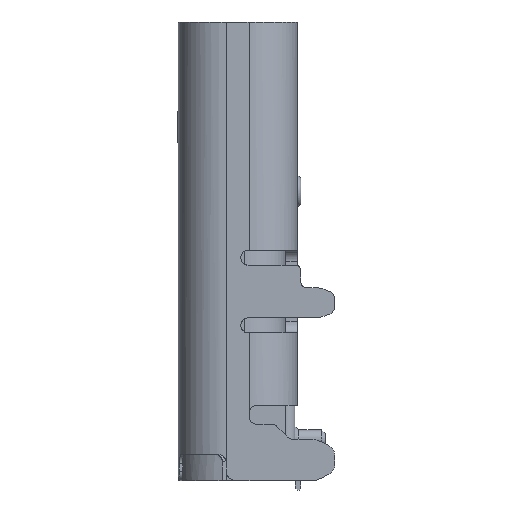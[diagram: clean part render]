
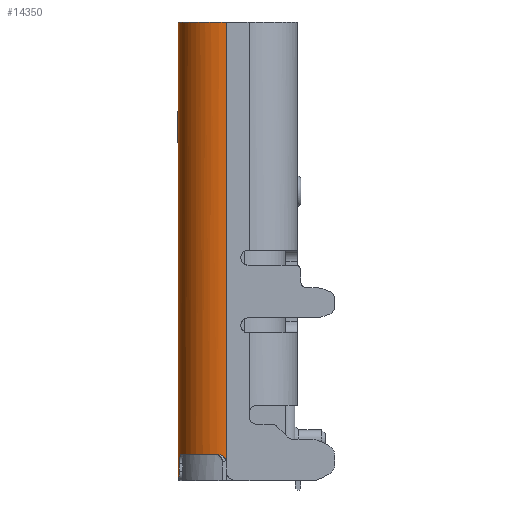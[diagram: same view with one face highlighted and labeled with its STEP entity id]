
A CAD part, left-side view. The second image highlights one B-rep face of the part: STEP entity #14350.
In plain terms, the highlighted cylindrical face has radius 1.28 mm (diameter 2.56 mm), a partial arc.
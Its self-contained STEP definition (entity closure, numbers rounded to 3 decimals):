
#260 = CARTESIAN_POINT ( 'NONE',  ( 0., 2.88, -10.95 ) ) ;
#1396 = EDGE_CURVE ( 'NONE', #3431, #17178, #72939, .T. ) ;
#2962 = CARTESIAN_POINT ( 'NONE',  ( 0.908, 4.106, -10.725 ) ) ;
#3155 = CARTESIAN_POINT ( 'NONE',  ( 1.055, 4.141, -11.278 ) ) ;
#3431 = VERTEX_POINT ( 'NONE', #44744 ) ;
#3752 = CARTESIAN_POINT ( 'NONE',  ( 0., 2.88, -7.033 ) ) ;
#5795 = CARTESIAN_POINT ( 'NONE',  ( 0.005, 3.002, -10.724 ) ) ;
#7724 = CARTESIAN_POINT ( 'NONE',  ( 1.005, 4.13, -10.84 ) ) ;
#7874 = VERTEX_POINT ( 'NONE', #35281 ) ;
#10473 = CARTESIAN_POINT ( 'NONE',  ( 0.493, 3.904, 0.8 ) ) ;
#10656 = VERTEX_POINT ( 'NONE', #28383 ) ;
#11595 = CARTESIAN_POINT ( 'NONE',  ( 1.28, 4.16, -11.4 ) ) ;
#11900 = CARTESIAN_POINT ( 'NONE',  ( 0., 2.88, 0.8 ) ) ;
#12941 = CARTESIAN_POINT ( 'NONE',  ( 0., 3.048, 0.8 ) ) ;
#14350 = ADVANCED_FACE ( 'NONE', ( #55228 ), #18519, .T. ) ;
#15002 = CARTESIAN_POINT ( 'NONE',  ( 1.03, 4.135, -11.219 ) ) ;
#15525 = CARTESIAN_POINT ( 'NONE',  ( 0.025, 3.13, -10.7 ) ) ;
#16010 = CARTESIAN_POINT ( 'NONE',  ( 0., 2.88, 0.8 ) ) ;
#16181 = CARTESIAN_POINT ( 'NONE',  ( 1.28, 4.16, -11.4 ) ) ;
#16428 = B_SPLINE_CURVE_WITH_KNOTS ( 'NONE', 3,
 ( #16181, #69160, #22491, #3155, #15002, #39520 ),
 .UNSPECIFIED., .F., .F.,
 ( 4, 2, 4 ),
 ( 0., 0.5, 1. ),
 .UNSPECIFIED. ) ;
#17178 = VERTEX_POINT ( 'NONE', #15525 ) ;
#17194 = CARTESIAN_POINT ( 'NONE',  ( 0.256, 3.667, 0.8 ) ) ;
#18165 = VERTEX_POINT ( 'NONE', #23615 ) ;
#18519 = CYLINDRICAL_SURFACE ( 'NONE', #72250, 1.28 ) ;
#18556 = ORIENTED_EDGE ( 'NONE', *, *, #47358, .T. ) ;
#19203 = CARTESIAN_POINT ( 'NONE',  ( 1.03, 4.135, -10.917 ) ) ;
#21150 = CARTESIAN_POINT ( 'NONE',  ( 0., 2.88, -3.117 ) ) ;
#21483 = CARTESIAN_POINT ( 'NONE',  ( 1.28, 4.16, -3.267 ) ) ;
#22491 = CARTESIAN_POINT ( 'NONE',  ( 1.152, 4.155, -11.376 ) ) ;
#23615 = CARTESIAN_POINT ( 'NONE',  ( 1.03, 4.135, -11.15 ) ) ;
#23963 = CARTESIAN_POINT ( 'NONE',  ( -0.001, 2.905, -10.821 ) ) ;
#25060 = B_SPLINE_CURVE_WITH_KNOTS ( 'NONE', 3,
 ( #74543, #19203, #49209, #7724, #33022, #26687, #25921, #2962, #44074, #49602 ),
 .UNSPECIFIED., .F., .F.,
 ( 4, 2, 2, 2, 4 ),
 ( 0., 0.25, 0.375, 0.5, 1. ),
 .UNSPECIFIED. ) ;
#25921 = CARTESIAN_POINT ( 'NONE',  ( 0.971, 4.122, -10.787 ) ) ;
#26141 = ORIENTED_EDGE ( 'NONE', *, *, #65421, .F. ) ;
#26622 = CARTESIAN_POINT ( 'NONE',  ( 1.28, 4.16, -11.4 ) ) ;
#26687 = CARTESIAN_POINT ( 'NONE',  ( 0.98, 4.124, -10.798 ) ) ;
#28383 = CARTESIAN_POINT ( 'NONE',  ( 1.28, 4.16, 0.8 ) ) ;
#29042 = CARTESIAN_POINT ( 'NONE',  ( 0.945, 4.127, 0.8 ) ) ;
#29983 = B_SPLINE_CURVE_WITH_KNOTS ( 'NONE', 3,
 ( #71430, #65089, #5795, #23963, #46494, #35091 ),
 .UNSPECIFIED., .F., .F.,
 ( 4, 2, 4 ),
 ( 0., 0.5, 1. ),
 .UNSPECIFIED. ) ;
#31142 = CARTESIAN_POINT ( 'NONE',  ( 0.78, 4.058, -10.7 ) ) ;
#32576 = CARTESIAN_POINT ( 'NONE',  ( 1.28, 4.16, -7.333 ) ) ;
#33022 = CARTESIAN_POINT ( 'NONE',  ( 0.997, 4.128, -10.825 ) ) ;
#33167 = ORIENTED_EDGE ( 'NONE', *, *, #57826, .T. ) ;
#35091 = CARTESIAN_POINT ( 'NONE',  ( 0., 2.88, -10.95 ) ) ;
#35281 = CARTESIAN_POINT ( 'NONE',  ( 1.03, 4.135, -10.95 ) ) ;
#35780 = CARTESIAN_POINT ( 'NONE',  ( 1.28, 4.16, 0.8 ) ) ;
#37100 = DIRECTION ( 'NONE',  ( 0., 0., 1. ) ) ;
#37857 = CARTESIAN_POINT ( 'NONE',  ( 0.025, 3.13, -10.7 ) ) ;
#39520 = CARTESIAN_POINT ( 'NONE',  ( 1.03, 4.135, -11.15 ) ) ;
#40528 = CARTESIAN_POINT ( 'NONE',  ( 0.033, 3.215, 0.8 ) ) ;
#44074 = CARTESIAN_POINT ( 'NONE',  ( 0.848, 4.087, -10.7 ) ) ;
#44218 = EDGE_CURVE ( 'NONE', #7874, #3431, #25060, .T. ) ;
#44327 = EDGE_CURVE ( 'NONE', #52889, #71768, #73094, .T. ) ;
#44744 = CARTESIAN_POINT ( 'NONE',  ( 0.78, 4.058, -10.7 ) ) ;
#44821 = ORIENTED_EDGE ( 'NONE', *, *, #67472, .T. ) ;
#45020 = CARTESIAN_POINT ( 'NONE',  ( 1.03, 4.135, -10.95 ) ) ;
#46494 = CARTESIAN_POINT ( 'NONE',  ( 0., 2.88, -10.88 ) ) ;
#47358 = EDGE_CURVE ( 'NONE', #60783, #18165, #16428, .T. ) ;
#49209 = CARTESIAN_POINT ( 'NONE',  ( 1.024, 4.134, -10.887 ) ) ;
#49602 = CARTESIAN_POINT ( 'NONE',  ( 0.78, 4.058, -10.7 ) ) ;
#49665 = CARTESIAN_POINT ( 'NONE',  ( 0.589, 3.977, -10.7 ) ) ;
#50445 = CARTESIAN_POINT ( 'NONE',  ( 0.156, 3.527, -10.7 ) ) ;
#50540 = CARTESIAN_POINT ( 'NONE',  ( 1.03, 4.135, -11.017 ) ) ;
#51115 = CARTESIAN_POINT ( 'NONE',  ( 1.28, 4.16, 0.8 ) ) ;
#52351 = CARTESIAN_POINT ( 'NONE',  ( 0., 2.88, -10.95 ) ) ;
#52889 = VERTEX_POINT ( 'NONE', #260 ) ;
#54363 = B_SPLINE_CURVE_WITH_KNOTS ( 'NONE', 3,
 ( #73037, #12941, #40528, #71742, #17194, #10473, #70551, #29042, #59456, #35780 ),
 .UNSPECIFIED., .F., .F.,
 ( 4, 2, 2, 2, 4 ),
 ( 0., 0.25, 0.5, 0.75, 1. ),
 .UNSPECIFIED. ) ;
#54843 = DIRECTION ( 'NONE',  ( 1., 0., 0. ) ) ;
#55228 = FACE_OUTER_BOUND ( 'NONE', #77321, .T. ) ;
#56475 = CARTESIAN_POINT ( 'NONE',  ( 1.03, 4.135, -11.083 ) ) ;
#57826 = EDGE_CURVE ( 'NONE', #17178, #52889, #29983, .T. ) ;
#58619 = ORIENTED_EDGE ( 'NONE', *, *, #1396, .T. ) ;
#59456 = CARTESIAN_POINT ( 'NONE',  ( 1.112, 4.16, 0.8 ) ) ;
#60783 = VERTEX_POINT ( 'NONE', #11595 ) ;
#60785 = CARTESIAN_POINT ( 'NONE',  ( 1.28, 2.88, -11.6 ) ) ;
#65089 = CARTESIAN_POINT ( 'NONE',  ( 0.011, 3.062, -10.7 ) ) ;
#65421 = EDGE_CURVE ( 'NONE', #60783, #10656, #71795, .T. ) ;
#67472 = EDGE_CURVE ( 'NONE', #71768, #10656, #54363, .T. ) ;
#67545 = B_SPLINE_CURVE_WITH_KNOTS ( 'NONE', 3,
 ( #75083, #56475, #50540, #45020 ),
 .UNSPECIFIED., .F., .F.,
 ( 4, 4 ),
 ( 0., 1. ),
 .UNSPECIFIED. ) ;
#68206 = ORIENTED_EDGE ( 'NONE', *, *, #44327, .T. ) ;
#69160 = CARTESIAN_POINT ( 'NONE',  ( 1.211, 4.16, -11.4 ) ) ;
#69218 = ORIENTED_EDGE ( 'NONE', *, *, #44218, .T. ) ;
#70551 = CARTESIAN_POINT ( 'NONE',  ( 0.635, 3.998, 0.8 ) ) ;
#71430 = CARTESIAN_POINT ( 'NONE',  ( 0.025, 3.13, -10.7 ) ) ;
#71443 = ORIENTED_EDGE ( 'NONE', *, *, #75320, .T. ) ;
#71742 = CARTESIAN_POINT ( 'NONE',  ( 0.162, 3.525, 0.8 ) ) ;
#71768 = VERTEX_POINT ( 'NONE', #11900 ) ;
#71795 = B_SPLINE_CURVE_WITH_KNOTS ( 'NONE', 3,
 ( #26622, #32576, #21483, #51115 ),
 .UNSPECIFIED., .F., .F.,
 ( 4, 4 ),
 ( 0., 1. ),
 .UNSPECIFIED. ) ;
#72250 = AXIS2_PLACEMENT_3D ( 'NONE', #60785, #37100, #54843 ) ;
#72939 = B_SPLINE_CURVE_WITH_KNOTS ( 'NONE', 3,
 ( #31142, #49665, #73041, #50445, #73825, #37857 ),
 .UNSPECIFIED., .F., .F.,
 ( 4, 2, 4 ),
 ( 0., 0.5, 1. ),
 .UNSPECIFIED. ) ;
#73037 = CARTESIAN_POINT ( 'NONE',  ( 0., 2.88, 0.8 ) ) ;
#73041 = CARTESIAN_POINT ( 'NONE',  ( 0.418, 3.849, -10.7 ) ) ;
#73094 = B_SPLINE_CURVE_WITH_KNOTS ( 'NONE', 3,
 ( #52351, #3752, #21150, #16010 ),
 .UNSPECIFIED., .F., .F.,
 ( 4, 4 ),
 ( 0., 1. ),
 .UNSPECIFIED. ) ;
#73825 = CARTESIAN_POINT ( 'NONE',  ( 0.065, 3.334, -10.7 ) ) ;
#74543 = CARTESIAN_POINT ( 'NONE',  ( 1.03, 4.135, -10.95 ) ) ;
#75083 = CARTESIAN_POINT ( 'NONE',  ( 1.03, 4.135, -11.15 ) ) ;
#75320 = EDGE_CURVE ( 'NONE', #18165, #7874, #67545, .T. ) ;
#77321 = EDGE_LOOP ( 'NONE', ( #44821, #26141, #18556, #71443, #69218, #58619, #33167, #68206 ) ) ;
